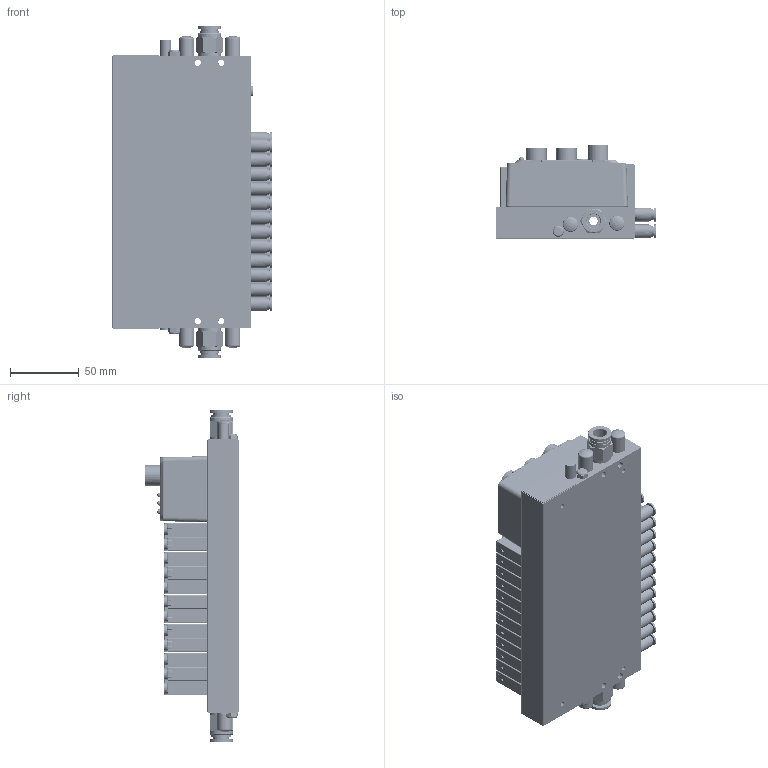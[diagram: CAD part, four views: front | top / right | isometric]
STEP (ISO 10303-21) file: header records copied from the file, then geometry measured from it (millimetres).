
FILE_DESCRIPTION(/* description */ (''),/* implementation_level */ '2;1');
FILE_NAME(/* name */ 'EV-XX-F1-12-X-XX-XX-A-X-C.stp',/* time_stamp */ '2025-10-13T14:12:25+08:00',/* author */ (''),/* organization */ (''),/* preprocessor_version */ 'ST-DEVELOPER v19.4',/* originating_system */ 'SIEMENS PLM Software NX2212.7001',/* authorisation */ '');
FILE_SCHEMA (('AUTOMOTIVE_DESIGN { 1 0 10303 214 3 1 1 1 }'));
Products named in the file (1): EV-PN-F1-H16-L-12-04-A-E-C_stp_objects
Bounding box: 116.5 x 68 x 241.6 mm (x, y, z)
Volume: 817932.4 mm3; surface area: 275560.4 mm2
Topology: 20 solids, 38 shells, 5472 faces, 13271 edges, 8168 vertices
Faces by surface type: plane 2195, cylinder 1993, torus 640, cone 242, sphere 216, bspline 186
Full cylindrical faces by diameter (mm): 1 x5, 1.05 x5, 1.5 x12, 1.55 x24, 1.7 x8, 2.05 x4, 2.15 x2, 2.3 x4, 2.48 x4, 2.5 x3, 2.8 x4, 3.3 x4, 3.446 x6, 3.5 x19, 3.7 x1, 4 x40, 4.134 x5, 4.3 x4, 4.5 x76, 5.1 x24, 5.3 x24, 5.4 x2, 5.5 x2, 5.917 x1, 6 x4, 7 x24, 8 x9, 8.3 x24, 8.566 x6, 9 x1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
Entity records: 188345 total; most frequent: CARTESIAN_POINT 40102, DIRECTION 26940, ORIENTED_EDGE 24092, EDGE_CURVE 12046, AXIS2_PLACEMENT_3D 10526, VERTEX_POINT 7824, EDGE_LOOP 6888, LINE 5888
